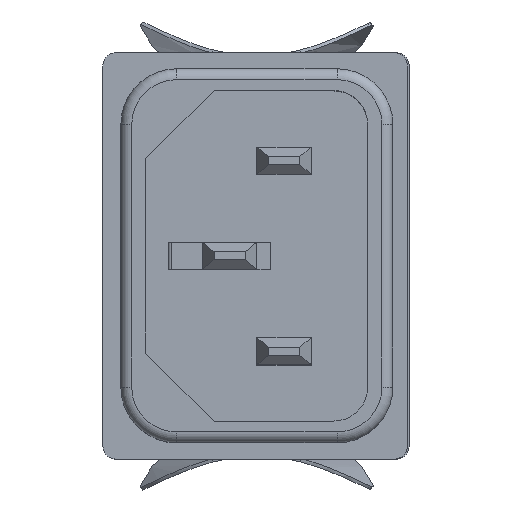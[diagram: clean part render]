
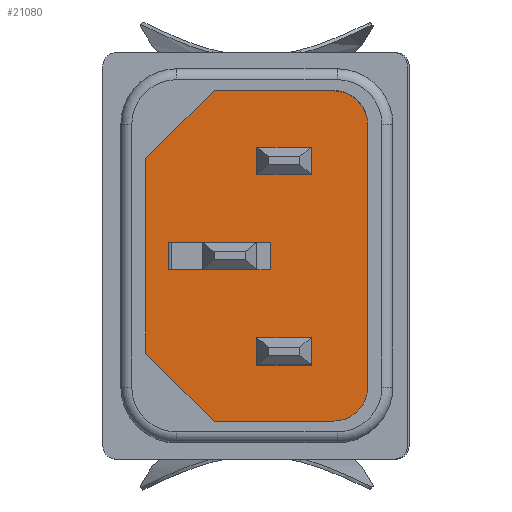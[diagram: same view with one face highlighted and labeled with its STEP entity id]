
A CAD part, top view. The second image highlights one B-rep face of the part: STEP entity #21080.
In plain terms, the highlighted planar face has unit normal (0, 0, 1).
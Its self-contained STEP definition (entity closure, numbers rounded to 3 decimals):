
#18329=CARTESIAN_POINT('',(39.15,49.042,37.5));
#18330=VERTEX_POINT('',#18329);
#18331=CARTESIAN_POINT('',(35.15,49.042,37.5));
#18332=VERTEX_POINT('',#18331);
#18333=CARTESIAN_POINT('',(39.15,49.042,37.5));
#18334=DIRECTION('',(-1.0,0.0,0.0));
#18335=VECTOR('',#18334,4.0);
#18336=LINE('',#18333,#18335);
#18337=EDGE_CURVE('',#18330,#18332,#18336,.T.);
#18479=CARTESIAN_POINT('',(35.15,51.042,37.5));
#18480=VERTEX_POINT('',#18479);
#18481=CARTESIAN_POINT('',(39.15,51.042,37.5));
#18482=VERTEX_POINT('',#18481);
#18483=CARTESIAN_POINT('',(35.15,51.042,37.5));
#18484=DIRECTION('',(1.0,0.0,0.0));
#18485=VECTOR('',#18484,4.0);
#18486=LINE('',#18483,#18485);
#18487=EDGE_CURVE('',#18480,#18482,#18486,.T.);
#18513=CARTESIAN_POINT('',(39.15,51.042,37.5));
#18514=DIRECTION('',(0.0,-1.0,0.0));
#18515=VECTOR('',#18514,2.);
#18516=LINE('',#18513,#18515);
#18517=EDGE_CURVE('',#18482,#18330,#18516,.T.);
#18545=CARTESIAN_POINT('',(35.15,49.042,37.5));
#18546=DIRECTION('',(0.0,1.0,0.0));
#18547=VECTOR('',#18546,2.0);
#18548=LINE('',#18545,#18547);
#18549=EDGE_CURVE('',#18332,#18480,#18548,.T.);
#18668=CARTESIAN_POINT('',(29.099,42.042,37.5));
#18669=VERTEX_POINT('',#18668);
#18670=CARTESIAN_POINT('',(29.099,44.042,37.5));
#18671=VERTEX_POINT('',#18670);
#18672=CARTESIAN_POINT('',(29.099,42.042,37.5));
#18673=DIRECTION('',(0.0,1.0,0.0));
#18674=VECTOR('',#18673,2.0);
#18675=LINE('',#18672,#18674);
#18676=EDGE_CURVE('',#18669,#18671,#18675,.T.);
#18732=CARTESIAN_POINT('',(36.15,42.042,37.5));
#18733=VERTEX_POINT('',#18732);
#18734=CARTESIAN_POINT('',(36.15,42.042,37.5));
#18735=DIRECTION('',(-1.0,0.0,0.0));
#18736=VECTOR('',#18735,7.051);
#18737=LINE('',#18734,#18736);
#18738=EDGE_CURVE('',#18733,#18669,#18737,.T.);
#18914=CARTESIAN_POINT('',(36.15,44.042,37.5));
#18915=VERTEX_POINT('',#18914);
#18916=CARTESIAN_POINT('',(29.099,44.042,37.5));
#18917=DIRECTION('',(1.0,0.0,0.0));
#18918=VECTOR('',#18917,7.051);
#18919=LINE('',#18916,#18918);
#18920=EDGE_CURVE('',#18671,#18915,#18919,.T.);
#19086=CARTESIAN_POINT('',(36.15,44.042,37.5));
#19087=DIRECTION('',(0.0,-1.0,0.0));
#19088=VECTOR('',#19087,2.);
#19089=LINE('',#19086,#19088);
#19090=EDGE_CURVE('',#18915,#18733,#19089,.T.);
#19373=CARTESIAN_POINT('',(39.15,35.042,37.5));
#19374=VERTEX_POINT('',#19373);
#19375=CARTESIAN_POINT('',(35.15,35.042,37.5));
#19376=VERTEX_POINT('',#19375);
#19377=CARTESIAN_POINT('',(39.15,35.042,37.5));
#19378=DIRECTION('',(-1.0,0.0,0.0));
#19379=VECTOR('',#19378,4.0);
#19380=LINE('',#19377,#19379);
#19381=EDGE_CURVE('',#19374,#19376,#19380,.T.);
#19523=CARTESIAN_POINT('',(35.15,37.042,37.5));
#19524=VERTEX_POINT('',#19523);
#19525=CARTESIAN_POINT('',(39.15,37.042,37.5));
#19526=VERTEX_POINT('',#19525);
#19527=CARTESIAN_POINT('',(35.15,37.042,37.5));
#19528=DIRECTION('',(1.0,0.0,0.0));
#19529=VECTOR('',#19528,4.);
#19530=LINE('',#19527,#19529);
#19531=EDGE_CURVE('',#19524,#19526,#19530,.T.);
#19557=CARTESIAN_POINT('',(39.15,37.042,37.5));
#19558=DIRECTION('',(0.0,-1.0,0.0));
#19559=VECTOR('',#19558,2.0);
#19560=LINE('',#19557,#19559);
#19561=EDGE_CURVE('',#19526,#19374,#19560,.T.);
#19589=CARTESIAN_POINT('',(35.15,35.042,37.5));
#19590=DIRECTION('',(0.0,1.0,0.0));
#19591=VECTOR('',#19590,2.0);
#19592=LINE('',#19589,#19591);
#19593=EDGE_CURVE('',#19376,#19524,#19592,.T.);
#20858=CARTESIAN_POINT('',(40.8,30.892,37.5));
#20859=VERTEX_POINT('',#20858);
#20860=CARTESIAN_POINT('',(43.3,33.392,37.5));
#20861=VERTEX_POINT('',#20860);
#20862=CARTESIAN_POINT('',(40.8,33.392,37.5));
#20863=DIRECTION('',(0.0,0.0,1.0));
#20864=DIRECTION('',(0.0,-1.0,0.0));
#20865=AXIS2_PLACEMENT_3D('',#20862,#20863,#20864);
#20866=CIRCLE('',#20865,2.5);
#20867=EDGE_CURVE('',#20859,#20861,#20866,.T.);
#20890=CARTESIAN_POINT('',(43.3,52.692,37.5));
#20891=VERTEX_POINT('',#20890);
#20892=CARTESIAN_POINT('',(43.3,33.392,37.5));
#20893=DIRECTION('',(0.0,1.0,0.0));
#20894=VECTOR('',#20893,19.3);
#20895=LINE('',#20892,#20894);
#20896=EDGE_CURVE('',#20861,#20891,#20895,.T.);
#20914=CARTESIAN_POINT('',(40.8,55.192,37.5));
#20915=VERTEX_POINT('',#20914);
#20916=CARTESIAN_POINT('',(40.8,52.692,37.5));
#20917=DIRECTION('',(0.0,0.0,1.0));
#20918=DIRECTION('',(1.0,0.0,0.0));
#20919=AXIS2_PLACEMENT_3D('',#20916,#20917,#20918);
#20920=CIRCLE('',#20919,2.5);
#20921=EDGE_CURVE('',#20891,#20915,#20920,.T.);
#20939=CARTESIAN_POINT('',(32.,55.192,37.5));
#20940=VERTEX_POINT('',#20939);
#20941=CARTESIAN_POINT('',(40.8,55.192,37.5));
#20942=DIRECTION('',(-1.0,0.0,0.0));
#20943=VECTOR('',#20942,8.8);
#20944=LINE('',#20941,#20943);
#20945=EDGE_CURVE('',#20915,#20940,#20944,.T.);
#20963=CARTESIAN_POINT('',(27.,50.192,37.5));
#20964=VERTEX_POINT('',#20963);
#20965=CARTESIAN_POINT('',(32.,55.192,37.5));
#20966=DIRECTION('',(-0.707,-0.707,0.0));
#20967=VECTOR('',#20966,7.071);
#20968=LINE('',#20965,#20967);
#20969=EDGE_CURVE('',#20940,#20964,#20968,.T.);
#20987=CARTESIAN_POINT('',(27.,35.892,37.5));
#20988=VERTEX_POINT('',#20987);
#20989=CARTESIAN_POINT('',(27.,50.192,37.5));
#20990=DIRECTION('',(0.0,-1.0,0.0));
#20991=VECTOR('',#20990,14.3);
#20992=LINE('',#20989,#20991);
#20993=EDGE_CURVE('',#20964,#20988,#20992,.T.);
#21011=CARTESIAN_POINT('',(32.,30.892,37.5));
#21012=VERTEX_POINT('',#21011);
#21013=CARTESIAN_POINT('',(27.,35.892,37.5));
#21014=DIRECTION('',(0.707,-0.707,0.0));
#21015=VECTOR('',#21014,7.071);
#21016=LINE('',#21013,#21015);
#21017=EDGE_CURVE('',#20988,#21012,#21016,.T.);
#21035=CARTESIAN_POINT('',(32.,30.892,37.5));
#21036=DIRECTION('',(1.0,0.0,0.0));
#21037=VECTOR('',#21036,8.8);
#21038=LINE('',#21035,#21037);
#21039=EDGE_CURVE('',#21012,#20859,#21038,.T.);
#21047=CARTESIAN_POINT('',(35.689,43.042,37.5));
#21048=DIRECTION('',(0.0,0.0,-1.0));
#21049=DIRECTION('',(1.0,0.0,0.0));
#21050=AXIS2_PLACEMENT_3D('',#21047,#21048,#21049);
#21051=PLANE('',#21050);
#21052=ORIENTED_EDGE('',*,*,#20867,.T.);
#21053=ORIENTED_EDGE('',*,*,#20896,.T.);
#21054=ORIENTED_EDGE('',*,*,#20921,.T.);
#21055=ORIENTED_EDGE('',*,*,#20945,.T.);
#21056=ORIENTED_EDGE('',*,*,#20969,.T.);
#21057=ORIENTED_EDGE('',*,*,#20993,.T.);
#21058=ORIENTED_EDGE('',*,*,#21017,.T.);
#21059=ORIENTED_EDGE('',*,*,#21039,.T.);
#21060=EDGE_LOOP('',(#21052,#21053,#21054,#21055,#21056,#21057,#21058,#21059));
#21061=FACE_OUTER_BOUND('',#21060,.T.);
#21062=ORIENTED_EDGE('',*,*,#18487,.T.);
#21063=ORIENTED_EDGE('',*,*,#18517,.T.);
#21064=ORIENTED_EDGE('',*,*,#18337,.T.);
#21065=ORIENTED_EDGE('',*,*,#18549,.T.);
#21066=EDGE_LOOP('',(#21062,#21063,#21064,#21065));
#21067=FACE_BOUND('',#21066,.T.);
#21068=ORIENTED_EDGE('',*,*,#18738,.T.);
#21069=ORIENTED_EDGE('',*,*,#18676,.T.);
#21070=ORIENTED_EDGE('',*,*,#18920,.T.);
#21071=ORIENTED_EDGE('',*,*,#19090,.T.);
#21072=EDGE_LOOP('',(#21068,#21069,#21070,#21071));
#21073=FACE_BOUND('',#21072,.T.);
#21074=ORIENTED_EDGE('',*,*,#19531,.T.);
#21075=ORIENTED_EDGE('',*,*,#19561,.T.);
#21076=ORIENTED_EDGE('',*,*,#19381,.T.);
#21077=ORIENTED_EDGE('',*,*,#19593,.T.);
#21078=EDGE_LOOP('',(#21074,#21075,#21076,#21077));
#21079=FACE_BOUND('',#21078,.T.);
#21080=ADVANCED_FACE('',(#21061,#21067,#21073,#21079),#21051,.F.);
